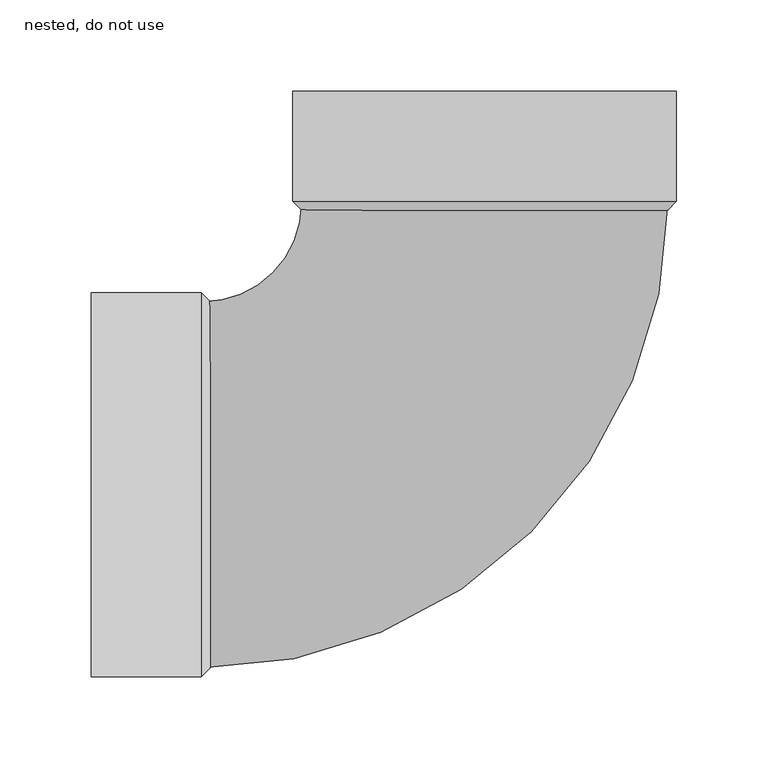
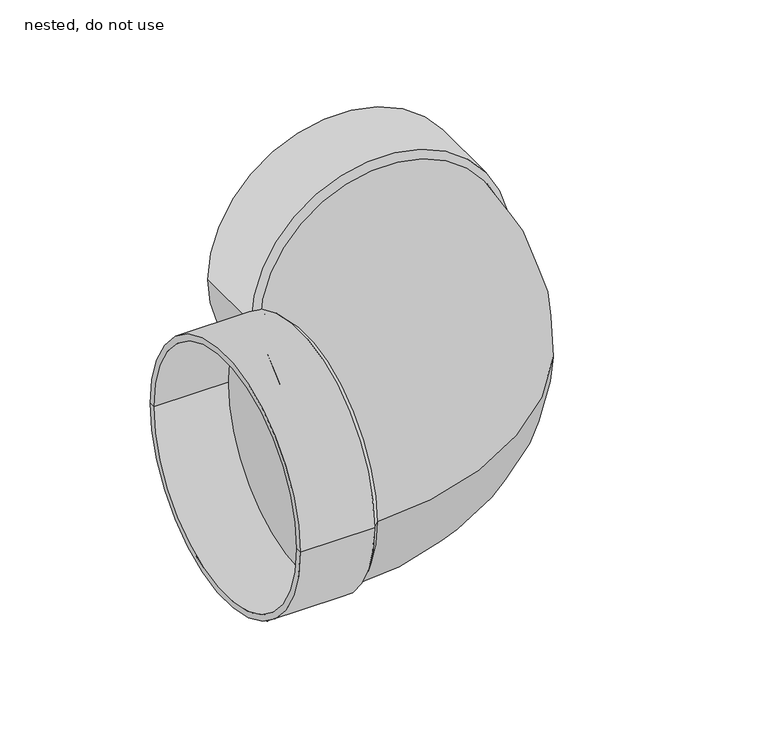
"""IFC4 building model written with IfcOpenShell, lengths in millimetres: pipe fitting geometry, NLRS_52_PIF_UN_Vacurain Flex bocht 2LV_SH_Dyka : nested, do not use."""

from ifc_helpers import new_model, si_unit, point, frame, origin, place, context, project, spatial, polyline, circle_curve, ellipse_curve, trimmed, source, transform, mapped, element, save
from ifc_brep_helpers import plane_surface, cylinder_surface, revolved_surface, advanced_brep


def nested_do_not_use_4d76558d(model_context):
    return source(origin(), model_context, "Body", "AdvancedBrep", [
        advanced_brep(
        [(-215.0, 104.9, 0.0), (-215.0, -104.9, 0.0), (-215.0, -100.0, 0.0), (-215.0, 100.0, 0.0), (-155.0, 104.9, 0.0), (-155.0, -104.9, 0.0), (-150.1, 100.0, 0.0), (-150.1, -100.0, 0.0)],
        [
            (0, 1, circle_curve(frame((-215.0, 0.0, 0.0), z_axis=(-1.0, 0.0, 0.0), x_axis=(0.0, -1.0000000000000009, 0.0)), 104.9)),
            (1, 2),
            (2, 3, circle_curve(frame((-215.0, 0.0, 0.0), z_axis=(1.0, 0.0, 0.0), x_axis=(0.0, -1.0000000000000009, 0.0)), 100.0)),
            (3, 0),
            (1, 0, circle_curve(frame((-215.0, 0.0, 0.0), z_axis=(-1.0, 0.0, 0.0), x_axis=(0.0, -1.0000000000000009, 0.0)), 104.9)),
            (3, 2, circle_curve(frame((-215.0, 0.0, 0.0), z_axis=(1.0, 0.0, 0.0), x_axis=(0.0, -1.0000000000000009, 0.0)), 100.0)),
            (4, 5, circle_curve(frame((-155.0, 0.0, 0.0), z_axis=(-1.0, 0.0, 0.0), x_axis=(0.0, -1.0000000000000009, 0.0)), 104.9)),
            (5, 1),
            (0, 4),
            (5, 4, circle_curve(frame((-155.0, 0.0, 0.0), z_axis=(-1.0, 0.0, 0.0), x_axis=(0.0, -1.0000000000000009, 0.0)), 104.9)),
            (6, 7, circle_curve(frame((-150.1, 0.0, 0.0), z_axis=(-1.0, 0.0, 0.0), x_axis=(0.0, -1.0000000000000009, 0.0)), 100.0)),
            (7, 5),
            (4, 6),
            (7, 6, circle_curve(frame((-150.1, 0.0, 0.0), z_axis=(-1.0, 0.0, 0.0), x_axis=(0.0, -1.0000000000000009, 0.0)), 100.0)),
            (2, 7),
            (6, 3),
        ],
        [
            plane_surface(frame((-215.0, 0.0, 0.0), z_axis=(-1.0, 0.0, 0.0), x_axis=(0.0, -1.0, 0.0))),
            cylinder_surface(frame((-155.0, 0.0, 0.0), z_axis=(1.0000000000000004, 0.0, 0.0), x_axis=(0.0, -1.0000000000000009, 0.0)), 104.9),
            revolved_surface(polyline([(-155.0, -104.9, 0.0), (-150.1, -100.0, 0.0)]), (-155.0, 0.0, 0.0), (1.0000000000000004, 0.0, 0.0)),
            revolved_surface(polyline([(-150.1, -100.00000000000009, 0.0), (-215.00000000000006, -100.00000000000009, 0.0)]), (-155.0, 0.0, 0.0), (1.0000000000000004, 0.0, 0.0)),
        ],
        [
            (0, [[1, 2, 3, 4]]),
            (0, [[5, -4, 6, -2]]),
            (1, [[7, 8, -1, 9]]),
            (1, [[10, -9, -5, -8]]),
            (2, [[11, 12, -7, 13]]),
            (2, [[14, -13, -10, -12]]),
            (3, [[-3, 15, -11, 16]]),
            (3, [[-6, -16, -14, -15]]),
        ],
    ),
        advanced_brep(
        [(104.9, 215.0, 0.0), (-104.9, 215.0, 0.0), (-100.0, 215.0, 0.0), (100.0, 215.0, 0.0), (104.9, 155.0, 0.0), (-104.9, 155.0, 0.0), (100.0, 150.1, 0.0), (-100.0, 150.1, 0.0)],
        [
            (0, 1, circle_curve(frame((0.0, 215.0, 0.0), z_axis=(0.0, 1.0, 0.0), x_axis=(-1.0000000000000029, 0.0, 0.0)), 104.9)),
            (1, 2),
            (2, 3, circle_curve(frame((0.0, 215.0, 0.0), z_axis=(0.0, -1.0, 0.0), x_axis=(-1.0000000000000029, 0.0, 0.0)), 100.0)),
            (3, 0),
            (1, 0, circle_curve(frame((0.0, 215.0, 0.0), z_axis=(0.0, 1.0, 0.0), x_axis=(-1.0000000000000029, 0.0, 0.0)), 104.9)),
            (3, 2, circle_curve(frame((0.0, 215.0, 0.0), z_axis=(0.0, -1.0, 0.0), x_axis=(-1.0000000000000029, 0.0, 0.0)), 100.0)),
            (4, 5, circle_curve(frame((0.0, 155.0, 0.0), z_axis=(0.0, 1.0, 0.0), x_axis=(-1.0000000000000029, 0.0, 0.0)), 104.9)),
            (5, 1),
            (0, 4),
            (5, 4, circle_curve(frame((0.0, 155.0, 0.0), z_axis=(0.0, 1.0, 0.0), x_axis=(-1.0000000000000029, 0.0, 0.0)), 104.9)),
            (6, 7, circle_curve(frame((0.0, 150.1, 0.0), z_axis=(0.0, 1.0, 0.0), x_axis=(-1.0000000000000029, 0.0, 0.0)), 100.0)),
            (7, 5),
            (4, 6),
            (7, 6, circle_curve(frame((0.0, 150.1, 0.0), z_axis=(0.0, 1.0, 0.0), x_axis=(-1.0000000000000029, 0.0, 0.0)), 100.0)),
            (2, 7),
            (6, 3),
        ],
        [
            plane_surface(frame((0.0, 215.0, 0.0), z_axis=(0.0, 1.0, 0.0), x_axis=(-1.0, 0.0, 0.0))),
            cylinder_surface(frame((0.0, 155.0, 0.0), z_axis=(0.0, -1.0000000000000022, 0.0), x_axis=(-1.0000000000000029, 0.0, 0.0)), 104.9),
            revolved_surface(polyline([(-104.9, 155.0, 0.0), (-100.0, 150.1, 0.0)]), (0.0, 155.0, 0.0), (0.0, -1.0000000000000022, 0.0)),
            revolved_surface(polyline([(-100.00000000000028, 150.09999999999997, 0.0), (-100.00000000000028, 215.00000000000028, 0.0)]), (0.0, 155.0, 0.0), (0.0, -1.0000000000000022, 0.0)),
        ],
        [
            (0, [[1, 2, 3, 4]]),
            (0, [[5, -4, 6, -2]]),
            (1, [[7, 8, -1, 9]]),
            (1, [[10, -9, -5, -8]]),
            (2, [[11, 12, -7, 13]]),
            (2, [[14, -13, -10, -12]]),
            (3, [[-3, 15, -11, 16]]),
            (3, [[-6, -16, -14, -15]]),
        ],
    ),
        advanced_brep(
        [(-155.0, -100.0, 0.0), (-155.0, 100.0, 0.0), (-154.0, -100.0, 0.0), (-154.0, 100.0, 0.0), (-100.0, 154.0, 0.0), (100.0, 154.0, 0.0), (100.0, 155.0, 0.0), (-100.0, 155.0, 0.0)],
        [
            (0, 1, circle_curve(frame((-155.0, 0.0, 0.0), z_axis=(-1.0, 0.0, 0.0), x_axis=(0.0, 1.0, 0.0)), 100.0)),
            (1, 0, circle_curve(frame((-155.0, 0.0, 0.0), z_axis=(-1.0, 0.0, 0.0), x_axis=(0.0, 1.0, 0.0)), 100.0)),
            (0, 2),
            (2, 3, circle_curve(frame((-154.0, 0.0, 0.0), z_axis=(-1.0, 0.0, 0.0), x_axis=(0.0, 1.0, 0.0)), 100.0)),
            (3, 1),
            (3, 2, circle_curve(frame((-154.0, 0.0, 0.0), z_axis=(-1.0, 0.0, 0.0), x_axis=(0.0, 1.0, 0.0)), 100.0)),
            (4, 3, circle_curve(frame((-154.0, 154.0, 0.0), z_axis=(0.0, 0.0, -1.0), x_axis=(0.0, -1.0, 0.0)), 54.0)),
            (2, 5, circle_curve(frame((-154.0, 154.0, 0.0), z_axis=(0.0, 0.0, 1.0), x_axis=(0.0, -1.0, 0.0)), 254.0)),
            (5, 4, circle_curve(frame((0.0, 154.0, 0.0), z_axis=(0.0, -1.0, 0.0), x_axis=(-1.0, 0.0, 0.0)), 100.0)),
            (4, 5, circle_curve(frame((0.0, 154.0, 0.0), z_axis=(0.0, -1.0, 0.0), x_axis=(-1.0, 0.0, 0.0)), 100.0)),
            (6, 7, circle_curve(frame((0.0, 155.0, 0.0), z_axis=(0.0, 1.0, 0.0), x_axis=(-1.0, 0.0, 0.0)), 100.0)),
            (7, 6, circle_curve(frame((0.0, 155.0, 0.0), z_axis=(0.0, 1.0, 0.0), x_axis=(-1.0, 0.0, 0.0)), 100.0)),
            (5, 6),
            (7, 4),
        ],
        [
            plane_surface(frame((-155.0, 0.0, 0.0), z_axis=(-1.0, 0.0, 0.0), x_axis=(0.0, 0.0, 1.0))),
            cylinder_surface(frame((-155.0, 0.0, 0.0), z_axis=(-1.0, 0.0, 0.0), x_axis=(0.0, 1.0, 0.0)), 100.0),
            revolved_surface(trimmed(ellipse_curve(frame((-154.0, 0.0, 0.0), z_axis=(-1.0, 0.0, 0.0), x_axis=(0.0, 1.0, 0.0)), 100.0, 100.0), [point((-154.0, -100.0, 0.0))], [point((-154.0, 100.0, 0.0))], True, "CARTESIAN"), (-154.0, 154.0, 0.0), (0.0, 0.0, 1.0)),
            revolved_surface(trimmed(ellipse_curve(frame((-154.0, 0.0, 0.0), z_axis=(-1.0, 0.0, 0.0), x_axis=(0.0, 1.0, 0.0)), 100.0, 100.0), [point((-154.0, 100.0, 0.0))], [point((-154.0, -100.0, 0.0))], True, "CARTESIAN"), (-154.0, 154.0, 0.0), (0.0, 0.0, 1.0)),
            plane_surface(frame((0.0, 155.0, 0.0), z_axis=(0.0, 1.0, 0.0), x_axis=(0.0, 0.0, 1.0))),
            cylinder_surface(frame((0.0, 154.0, 0.0), z_axis=(0.0, -1.0, 0.0), x_axis=(-1.0, 0.0, 0.0)), 100.0),
        ],
        [
            (0, [[1, 2]]),
            (1, [[-1, 3, 4, 5]]),
            (1, [[-2, -5, 6, -3]]),
            (2, [[7, -4, 8, 9]]),
            (3, [[-8, -6, -7, 10]]),
            (4, [[11, 12]]),
            (5, [[-9, 13, -12, 14]]),
            (5, [[-10, -14, -11, -13]]),
        ],
    ),
    ])


if __name__ == "__main__":
    model = new_model("IFC4")
    model_context = context("Model", 3, world=origin())
    ifc_project = project(units=[si_unit("LENGTHUNIT", "METRE", prefix="MILLI")], contexts=[model_context])
    site = spatial("IfcSite", under=ifc_project)
    building = spatial("IfcBuilding", under=site)
    placement = place(None, origin())
    nested_do_not_use_shape = nested_do_not_use_4d76558d(model_context)
    element("IfcPipeFitting", 1, ObjectType="NLRS_52_PIF_UN_Vacurain Flex bocht 2LV_SH_Dyka : nested, do not use", at=placement, inside=building, context=model_context, shape_type="MappedRepresentation", body=[
        mapped(nested_do_not_use_shape, transform((0.0, 0.0, 0.0), x_axis=(1.0, 0.0, 0.0), y_axis=(0.0, 1.0, 0.0), z_axis=(0.0, 0.0, 1.0))),
    ])
    save(model, "model.ifc")
